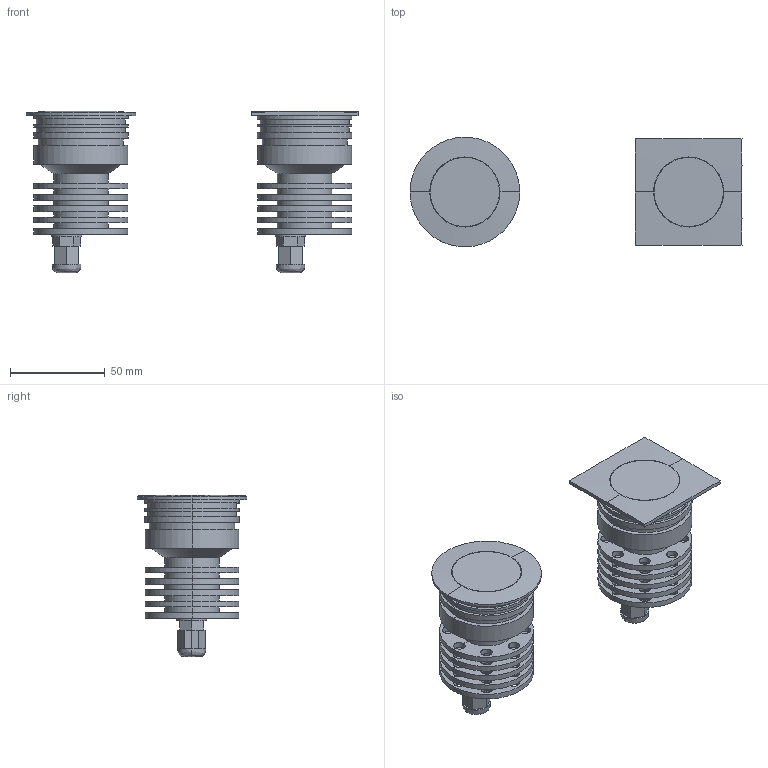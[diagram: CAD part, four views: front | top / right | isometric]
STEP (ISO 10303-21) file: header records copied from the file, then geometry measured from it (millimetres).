
FILE_DESCRIPTION(/* description */ (''),/* implementation_level */ '2;1');
FILE_NAME(/* name */ 'Hop 6',/* time_stamp */ '2025-06-18T17:56:49+02:00',/* author */ (''),/* organization */ (''),/* preprocessor_version */ 'ST-DEVELOPER v15',/* originating_system */ '',/* authorisation */ '');
FILE_SCHEMA (('CONFIG_CONTROL_DESIGN'));
Length unit declared in the file: millimetre
Products named in the file (1): Document
Bounding box: 175.2 x 57.87 x 85.05 mm (x, y, z)
Volume: 166534.7 mm3; surface area: 91124.4 mm2
Topology: 11 solids, 12 shells, 826 faces, 2020 edges, 1158 vertices
Faces by surface type: bspline 826
Entity records: 64521 total; most frequent: CARTESIAN_POINT 39429, B_SPLINE_CURVE_WITH_KNOTS 4805, ORIENTED_EDGE 4004, PCURVE 4004, DEFINITIONAL_REPRESENTATION 4004, SURFACE_CURVE 2004, EDGE_CURVE 2004, VERTEX_POINT 1154
